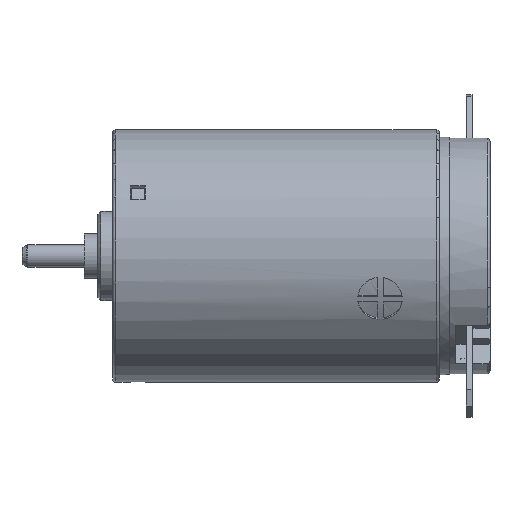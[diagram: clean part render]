
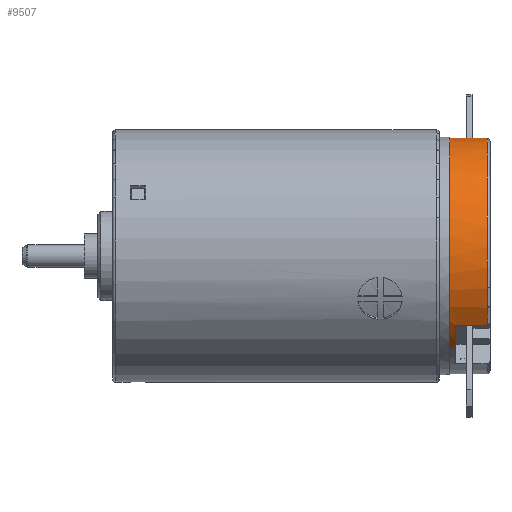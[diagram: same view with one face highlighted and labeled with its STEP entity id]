
A CAD part, top view. The second image highlights one B-rep face of the part: STEP entity #9507.
In plain terms, the highlighted cylindrical face has radius 7.95 mm (diameter 15.9 mm), a partial arc.
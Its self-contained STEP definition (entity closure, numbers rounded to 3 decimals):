
#344=CARTESIAN_POINT('',(21.3,0.,0.));
#345=DIRECTION('',(1.,0.,0.));
#346=DIRECTION('',(0.,0.777,-0.629));
#347=AXIS2_PLACEMENT_3D('',#344,#345,#346);
#367=CARTESIAN_POINT('',(23.8,0.,0.));
#368=DIRECTION('',(-1.,0.,0.));
#369=DIRECTION('',(0.,-0.589,0.808));
#370=AXIS2_PLACEMENT_3D('',#367,#368,#369);
#375=CARTESIAN_POINT('',(21.7,0.,0.));
#376=DIRECTION('',(1.,0.,0.));
#377=DIRECTION('',(0.,-0.589,0.808));
#378=AXIS2_PLACEMENT_3D('',#375,#376,#377);
#383=CARTESIAN_POINT('',(21.7,0.,0.));
#384=DIRECTION('',(1.,0.,0.));
#385=DIRECTION('',(0.,0.777,-0.629));
#386=AXIS2_PLACEMENT_3D('',#383,#384,#385);
#408=CARTESIAN_POINT('',(23.8,7.259,-3.241));
#420=DIRECTION('',(-1.,0.,0.));
#421=VECTOR('',#420,2.1);
#422=CARTESIAN_POINT('',(23.8,7.259,-3.241));
#423=LINE('',#422,#421);
#467=DIRECTION('',(1.,0.,0.));
#468=VECTOR('',#467,2.1);
#469=CARTESIAN_POINT('',(21.7,-4.679,6.427));
#470=LINE('',#469,#468);
#481=CARTESIAN_POINT('',(23.8,-4.679,6.427));
#1414=DIRECTION('',(-1.,0.,0.));
#1415=VECTOR('',#1414,0.4);
#1416=CARTESIAN_POINT('',(21.7,6.178,-5.003));
#1417=LINE('',#1416,#1415);
#1421=DIRECTION('',(-1.,0.,0.));
#1422=VECTOR('',#1421,0.4);
#1423=CARTESIAN_POINT('',(21.7,-6.178,5.003));
#1424=LINE('',#1423,#1422);
#1856=CARTESIAN_POINT('',(21.3,0.,0.));
#1857=DIRECTION('',(1.,0.,0.));
#1858=DIRECTION('',(0.,0.95,-0.312));
#1859=AXIS2_PLACEMENT_3D('',#1856,#1857,#1858);
#2872=CARTESIAN_POINT('',(21.3,0.,0.));
#2873=DIRECTION('',(1.,0.,0.));
#2874=DIRECTION('',(0.,0.998,-0.067));
#2875=AXIS2_PLACEMENT_3D('',#2872,#2873,#2874);
#2887=CARTESIAN_POINT('',(21.3,0.,0.));
#2888=DIRECTION('',(1.,0.,0.));
#2889=DIRECTION('',(0.,0.,1.));
#2890=AXIS2_PLACEMENT_3D('',#2887,#2888,#2889);
#8512=CARTESIAN_POINT('',(21.7,6.178,-5.003));
#8513=CARTESIAN_POINT('',(21.7,7.259,-3.241));
#8514=VERTEX_POINT('',#8512);
#8515=VERTEX_POINT('',#8513);
#8516=CARTESIAN_POINT('',(21.7,-4.679,6.427));
#8517=CARTESIAN_POINT('',(21.7,-6.178,5.003));
#8518=VERTEX_POINT('',#8516);
#8519=VERTEX_POINT('',#8517);
#8636=CARTESIAN_POINT('',(21.3,6.178,-5.003));
#8637=CARTESIAN_POINT('',(21.3,7.553,-2.481));
#8638=VERTEX_POINT('',#8636);
#8639=VERTEX_POINT('',#8637);
#8640=CARTESIAN_POINT('',(21.3,7.932,-0.53));
#8641=CARTESIAN_POINT('',(21.3,0.,7.95));
#8642=VERTEX_POINT('',#8640);
#8643=VERTEX_POINT('',#8641);
#8696=CARTESIAN_POINT('',(21.3,-6.178,5.003));
#8697=VERTEX_POINT('',#8696);
#8820=VERTEX_POINT('',#408);
#8824=VERTEX_POINT('',#481);
#9479=CARTESIAN_POINT('',(19.775,0.,0.));
#9480=DIRECTION('',(1.,0.,0.));
#9481=DIRECTION('',(0.,-0.777,0.629));
#9482=AXIS2_PLACEMENT_3D('',#9479,#9480,#9481);
#9483=CYLINDRICAL_SURFACE('',#9482,7.95);
#9485=ORIENTED_EDGE('',*,*,#9484,.F.);
#9487=ORIENTED_EDGE('',*,*,#9486,.F.);
#9489=ORIENTED_EDGE('',*,*,#9488,.F.);
#9491=ORIENTED_EDGE('',*,*,#9490,.T.);
#9493=ORIENTED_EDGE('',*,*,#9492,.T.);
#9495=ORIENTED_EDGE('',*,*,#9494,.F.);
#9497=ORIENTED_EDGE('',*,*,#9496,.F.);
#9499=ORIENTED_EDGE('',*,*,#9498,.F.);
#9500=ORIENTED_EDGE('',*,*,#9468,.F.);
#9502=ORIENTED_EDGE('',*,*,#9501,.F.);
#9504=ORIENTED_EDGE('',*,*,#9503,.T.);
#9505=EDGE_LOOP('',(#9485,#9487,#9489,#9491,#9493,#9495,#9497,#9499,#9500,#9502,
#9504));
#9506=FACE_OUTER_BOUND('',#9505,.F.);
#9507=ADVANCED_FACE('',(#9506),#9483,.T.);
#348=CIRCLE('',#347,7.95);
#371=CIRCLE('',#370,7.95);
#379=CIRCLE('',#378,7.95);
#387=CIRCLE('',#386,7.95);
#1860=CIRCLE('',#1859,7.95);
#2876=CIRCLE('',#2875,7.95);
#2891=CIRCLE('',#2890,7.95);
#9468=EDGE_CURVE('',#8638,#8639,#348,.T.);
#9484=EDGE_CURVE('',#8820,#8515,#423,.T.);
#9486=EDGE_CURVE('',#8824,#8820,#371,.T.);
#9488=EDGE_CURVE('',#8518,#8824,#470,.T.);
#9490=EDGE_CURVE('',#8518,#8519,#379,.T.);
#9492=EDGE_CURVE('',#8519,#8697,#1424,.T.);
#9494=EDGE_CURVE('',#8643,#8697,#2891,.T.);
#9496=EDGE_CURVE('',#8642,#8643,#2876,.T.);
#9498=EDGE_CURVE('',#8639,#8642,#1860,.T.);
#9501=EDGE_CURVE('',#8514,#8638,#1417,.T.);
#9503=EDGE_CURVE('',#8514,#8515,#387,.T.);
